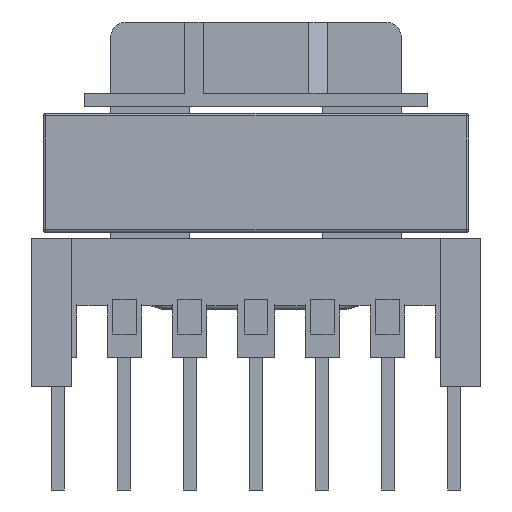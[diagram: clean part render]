
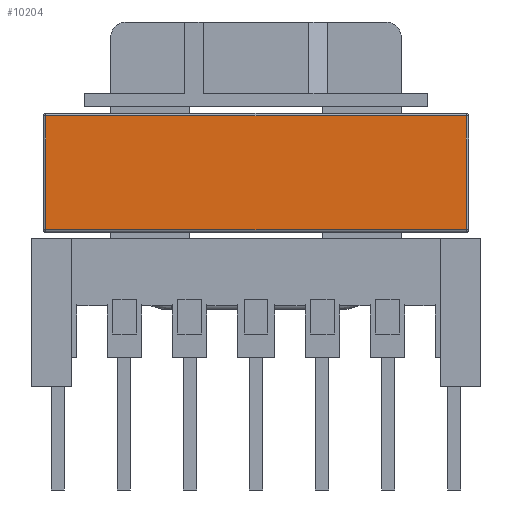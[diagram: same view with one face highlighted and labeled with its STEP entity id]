
A CAD part, front view. The second image highlights one B-rep face of the part: STEP entity #10204.
In plain terms, the highlighted planar face has unit normal (0, -1, 0) as drawn and (0, 0, 1) by its records, which use the part's own axes.
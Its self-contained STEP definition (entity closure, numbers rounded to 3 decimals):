
#10204 = ADVANCED_FACE('',(#10205),#10239,.F.);
#10205 = FACE_BOUND('',#10206,.T.);
#10206 = EDGE_LOOP('',(#10207,#10217,#10225,#10233));
#10207 = ORIENTED_EDGE('',*,*,#10208,.T.);
#10208 = EDGE_CURVE('',#10209,#10211,#10213,.T.);
#10209 = VERTEX_POINT('',#10210);
#10210 = CARTESIAN_POINT('',(7.95,0.1,0.));
#10211 = VERTEX_POINT('',#10212);
#10212 = CARTESIAN_POINT('',(7.95,4.4,0.));
#10213 = LINE('',#10214,#10215);
#10214 = CARTESIAN_POINT('',(7.95,4.5,0.));
#10215 = VECTOR('',#10216,1.);
#10216 = DIRECTION('',(-0.,1.,-0.));
#10217 = ORIENTED_EDGE('',*,*,#10218,.T.);
#10218 = EDGE_CURVE('',#10211,#10219,#10221,.T.);
#10219 = VERTEX_POINT('',#10220);
#10220 = CARTESIAN_POINT('',(-7.95,4.4,0.));
#10221 = LINE('',#10222,#10223);
#10222 = CARTESIAN_POINT('',(-8.05,4.4,0.));
#10223 = VECTOR('',#10224,1.);
#10224 = DIRECTION('',(-1.,-0.,0.));
#10225 = ORIENTED_EDGE('',*,*,#10226,.T.);
#10226 = EDGE_CURVE('',#10219,#10227,#10229,.T.);
#10227 = VERTEX_POINT('',#10228);
#10228 = CARTESIAN_POINT('',(-7.95,0.1,0.));
#10229 = LINE('',#10230,#10231);
#10230 = CARTESIAN_POINT('',(-7.95,0.,0.));
#10231 = VECTOR('',#10232,1.);
#10232 = DIRECTION('',(0.,-1.,0.));
#10233 = ORIENTED_EDGE('',*,*,#10234,.T.);
#10234 = EDGE_CURVE('',#10227,#10209,#10235,.T.);
#10235 = LINE('',#10236,#10237);
#10236 = CARTESIAN_POINT('',(0.,0.1,0.));
#10237 = VECTOR('',#10238,1.);
#10238 = DIRECTION('',(1.,0.,0.));
#10239 = PLANE('',#10240);
#10240 = AXIS2_PLACEMENT_3D('',#10241,#10242,#10243);
#10241 = CARTESIAN_POINT('',(0.,4.5,0.));
#10242 = DIRECTION('',(0.,0.,-1.));
#10243 = DIRECTION('',(-1.,0.,0.));
